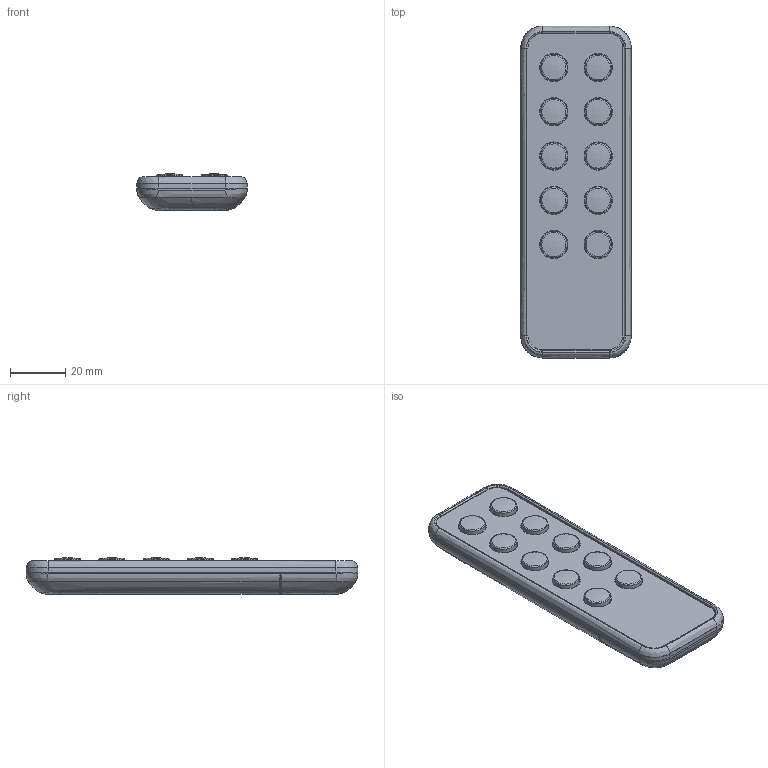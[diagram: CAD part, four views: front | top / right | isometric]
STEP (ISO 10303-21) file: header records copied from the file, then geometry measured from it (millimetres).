
FILE_DESCRIPTION (( 'STEP AP203' ), '1' );
FILE_NAME ('產品三維模型圖-TFH22-A-1.STEP', '2018-08-02T09:34:35', ( '' ), ( '' ), 'SwSTEP 2.0', 'SolidWorks 2015', '' );
FILE_SCHEMA (( 'CONFIG_CONTROL_DESIGN' ));
Length unit declared in the file: millimetre
Products named in the file (1): 產品三維模型圖-TFH22-A-1
Bounding box: 40 x 120 x 13.13 mm (x, y, z)
Volume: 50256.6 mm3; surface area: 32281.3 mm2
Topology: 14 solids, 14 shells, 258 faces, 637 edges, 416 vertices
Faces by surface type: bspline 93, cylinder 78, plane 58, torus 17, cone 12
Entity records: 21656 total; most frequent: CARTESIAN_POINT 16088, ORIENTED_EDGE 1266, DIRECTION 948, EDGE_CURVE 633, VERTEX_POINT 416, AXIS2_PLACEMENT_3D 394, EDGE_LOOP 291, ADVANCED_FACE 258
